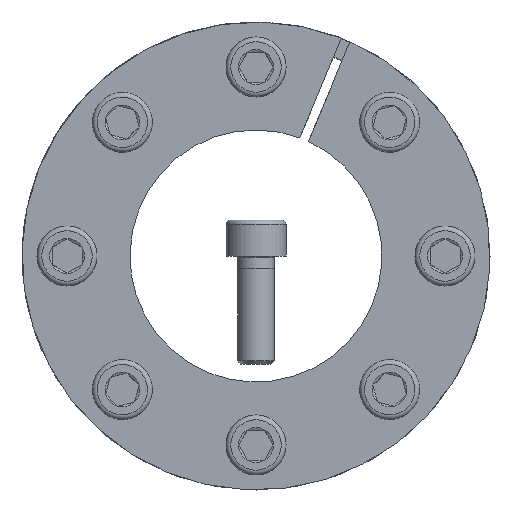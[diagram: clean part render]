
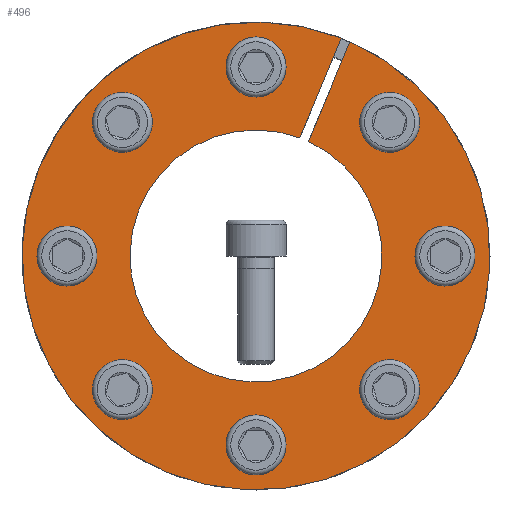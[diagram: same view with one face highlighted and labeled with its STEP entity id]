
A CAD part, front view. The second image highlights one B-rep face of the part: STEP entity #496.
In plain terms, the highlighted planar face has unit normal (0, -1, 0).
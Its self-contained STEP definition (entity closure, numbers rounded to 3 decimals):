
#496 = ADVANCED_FACE( '', ( #896, #897, #898, #899, #900, #901, #902, #903, #904 ), #905, .F. );
#896 = FACE_BOUND( '', #1468, .T. );
#897 = FACE_BOUND( '', #1469, .T. );
#898 = FACE_BOUND( '', #1470, .T. );
#899 = FACE_BOUND( '', #1471, .T. );
#900 = FACE_BOUND( '', #1472, .T. );
#901 = FACE_BOUND( '', #1473, .T. );
#902 = FACE_BOUND( '', #1474, .T. );
#903 = FACE_BOUND( '', #1475, .T. );
#904 = FACE_OUTER_BOUND( '', #1476, .T. );
#905 = PLANE( '', #1477 );
#1468 = EDGE_LOOP( '', ( #2149 ) );
#1469 = EDGE_LOOP( '', ( #2150 ) );
#1470 = EDGE_LOOP( '', ( #2151 ) );
#1471 = EDGE_LOOP( '', ( #2152 ) );
#1472 = EDGE_LOOP( '', ( #2153 ) );
#1473 = EDGE_LOOP( '', ( #2154 ) );
#1474 = EDGE_LOOP( '', ( #2155 ) );
#1475 = EDGE_LOOP( '', ( #2156 ) );
#1476 = EDGE_LOOP( '', ( #2157, #2158, #2159, #2160 ) );
#1477 = AXIS2_PLACEMENT_3D( '', #2161, #2162, #2163 );
#2149 = ORIENTED_EDGE( '', *, *, #3435, .T. );
#2150 = ORIENTED_EDGE( '', *, *, #3436, .T. );
#2151 = ORIENTED_EDGE( '', *, *, #3437, .T. );
#2152 = ORIENTED_EDGE( '', *, *, #3438, .T. );
#2153 = ORIENTED_EDGE( '', *, *, #3439, .T. );
#2154 = ORIENTED_EDGE( '', *, *, #3440, .T. );
#2155 = ORIENTED_EDGE( '', *, *, #3441, .T. );
#2156 = ORIENTED_EDGE( '', *, *, #3424, .T. );
#2157 = ORIENTED_EDGE( '', *, *, #3419, .T. );
#2158 = ORIENTED_EDGE( '', *, *, #3425, .T. );
#2159 = ORIENTED_EDGE( '', *, *, #3396, .T. );
#2160 = ORIENTED_EDGE( '', *, *, #3387, .F. );
#2161 = CARTESIAN_POINT( '', ( 0., 0., 39. ) );
#2162 = DIRECTION( '', ( 0., 1., 0. ) );
#2163 = DIRECTION( '', ( 0., 0., 1. ) );
#3387 = EDGE_CURVE( '', #3758, #3754, #3760, .T. );
#3396 = EDGE_CURVE( '', #3777, #3754, #3778, .T. );
#3419 = EDGE_CURVE( '', #3758, #3813, #3815, .T. );
#3424 = EDGE_CURVE( '', #3821, #3821, #3822, .T. );
#3425 = EDGE_CURVE( '', #3813, #3777, #3823, .T. );
#3435 = EDGE_CURVE( '', #3841, #3841, #3842, .T. );
#3436 = EDGE_CURVE( '', #3843, #3843, #3844, .T. );
#3437 = EDGE_CURVE( '', #3845, #3845, #3846, .T. );
#3438 = EDGE_CURVE( '', #3847, #3847, #3848, .T. );
#3439 = EDGE_CURVE( '', #3849, #3849, #3850, .T. );
#3440 = EDGE_CURVE( '', #3851, #3851, #3852, .T. );
#3441 = EDGE_CURVE( '', #3853, #3853, #3854, .T. );
#3754 = VERTEX_POINT( '', #4267 );
#3758 = VERTEX_POINT( '', #4272 );
#3760 = CIRCLE( '', #4275, 21. );
#3777 = VERTEX_POINT( '', #4300 );
#3778 = LINE( '', #4301, #4302 );
#3813 = VERTEX_POINT( '', #4366 );
#3815 = LINE( '', #4369, #4370 );
#3821 = VERTEX_POINT( '', #4376 );
#3822 = CIRCLE( '', #4377, 3. );
#3823 = CIRCLE( '', #4378, 39. );
#3841 = VERTEX_POINT( '', #4396 );
#3842 = CIRCLE( '', #4397, 3. );
#3843 = VERTEX_POINT( '', #4398 );
#3844 = CIRCLE( '', #4399, 3. );
#3845 = VERTEX_POINT( '', #4400 );
#3846 = CIRCLE( '', #4401, 3. );
#3847 = VERTEX_POINT( '', #4402 );
#3848 = CIRCLE( '', #4403, 3. );
#3849 = VERTEX_POINT( '', #4404 );
#3850 = CIRCLE( '', #4405, 3. );
#3851 = VERTEX_POINT( '', #4406 );
#3852 = CIRCLE( '', #4407, 3. );
#3853 = VERTEX_POINT( '', #4408 );
#3854 = CIRCLE( '', #4409, 3. );
#4267 = CARTESIAN_POINT( '', ( 8.757, 0., 19.087 ) );
#4272 = CARTESIAN_POINT( '', ( 7.305, 0., 19.689 ) );
#4275 = AXIS2_PLACEMENT_3D( '', #5232, #5233, #5234 );
#4300 = CARTESIAN_POINT( '', ( 15.648, 0., 35.723 ) );
#4301 = CARTESIAN_POINT( '', ( 15.651, 0., 35.731 ) );
#4302 = VECTOR( '', #5249, 1000. );
#4366 = CARTESIAN_POINT( '', ( 14.196, 0., 36.325 ) );
#4369 = CARTESIAN_POINT( '', ( 7.305, 0., 19.689 ) );
#4370 = VECTOR( '', #5274, 1000. );
#4376 = CARTESIAN_POINT( '', ( -20.153, 0., 24.395 ) );
#4377 = AXIS2_PLACEMENT_3D( '', #5287, #5288, #5289 );
#4378 = AXIS2_PLACEMENT_3D( '', #5290, #5291, #5292 );
#4396 = CARTESIAN_POINT( '', ( 3., 0., 31.5 ) );
#4397 = AXIS2_PLACEMENT_3D( '', #5320, #5321, #5322 );
#4398 = CARTESIAN_POINT( '', ( 24.395, 0., 20.153 ) );
#4399 = AXIS2_PLACEMENT_3D( '', #5323, #5324, #5325 );
#4400 = CARTESIAN_POINT( '', ( 31.5, 0., -3. ) );
#4401 = AXIS2_PLACEMENT_3D( '', #5326, #5327, #5328 );
#4402 = CARTESIAN_POINT( '', ( 20.153, 0., -24.395 ) );
#4403 = AXIS2_PLACEMENT_3D( '', #5329, #5330, #5331 );
#4404 = CARTESIAN_POINT( '', ( -3., 0., -31.5 ) );
#4405 = AXIS2_PLACEMENT_3D( '', #5332, #5333, #5334 );
#4406 = CARTESIAN_POINT( '', ( -24.395, 0., -20.153 ) );
#4407 = AXIS2_PLACEMENT_3D( '', #5335, #5336, #5337 );
#4408 = CARTESIAN_POINT( '', ( -31.5, 0., 3. ) );
#4409 = AXIS2_PLACEMENT_3D( '', #5338, #5339, #5340 );
#5232 = CARTESIAN_POINT( '', ( 0., 0., 0. ) );
#5233 = DIRECTION( '', ( 0., -1., 0. ) );
#5234 = DIRECTION( '', ( 0., 0., -1. ) );
#5249 = DIRECTION( '', ( -0.383, 0., -0.924 ) );
#5274 = DIRECTION( '', ( 0.383, 0., 0.924 ) );
#5287 = CARTESIAN_POINT( '', ( -22.274, 0., 22.274 ) );
#5288 = DIRECTION( '', ( 0., 1., 0. ) );
#5289 = DIRECTION( '', ( 0.707, 0., 0.707 ) );
#5290 = CARTESIAN_POINT( '', ( 0., 0., 0. ) );
#5291 = DIRECTION( '', ( 0., -1., 0. ) );
#5292 = DIRECTION( '', ( 0., 0., -1. ) );
#5320 = CARTESIAN_POINT( '', ( 0., 0., 31.5 ) );
#5321 = DIRECTION( '', ( 0., 1., 0. ) );
#5322 = DIRECTION( '', ( 1., 0., 0. ) );
#5323 = CARTESIAN_POINT( '', ( 22.274, 0., 22.274 ) );
#5324 = DIRECTION( '', ( 0., 1., 0. ) );
#5325 = DIRECTION( '', ( 0.707, 0., -0.707 ) );
#5326 = CARTESIAN_POINT( '', ( 31.5, 0., 0. ) );
#5327 = DIRECTION( '', ( 0., 1., 0. ) );
#5328 = DIRECTION( '', ( 0., 0., -1. ) );
#5329 = CARTESIAN_POINT( '', ( 22.274, 0., -22.274 ) );
#5330 = DIRECTION( '', ( 0., 1., 0. ) );
#5331 = DIRECTION( '', ( -0.707, 0., -0.707 ) );
#5332 = CARTESIAN_POINT( '', ( 0., 0., -31.5 ) );
#5333 = DIRECTION( '', ( 0., 1., 0. ) );
#5334 = DIRECTION( '', ( -1., 0., 0. ) );
#5335 = CARTESIAN_POINT( '', ( -22.274, 0., -22.274 ) );
#5336 = DIRECTION( '', ( 0., 1., 0. ) );
#5337 = DIRECTION( '', ( -0.707, 0., 0.707 ) );
#5338 = CARTESIAN_POINT( '', ( -31.5, 0., 0. ) );
#5339 = DIRECTION( '', ( 0., 1., 0. ) );
#5340 = DIRECTION( '', ( 0., 0., 1. ) );
